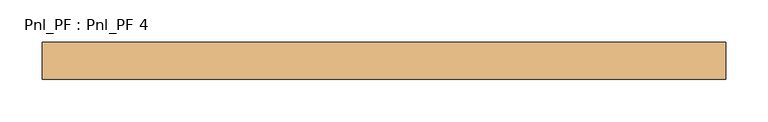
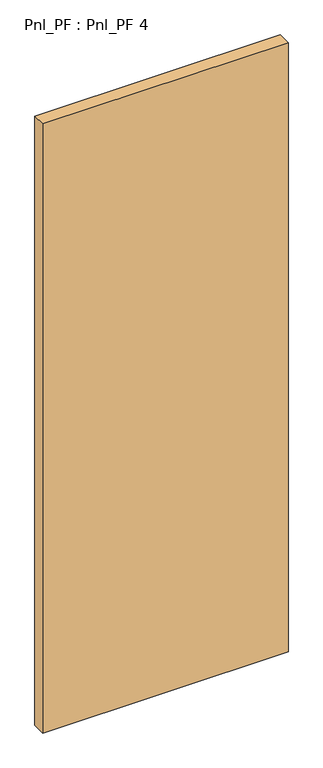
"""IFC4 building model written with IfcOpenShell, lengths in millimetres: door geometry, Pnl_PF : Pnl_PF 4."""

from ifc_helpers import new_model, si_unit, origin, origin_with_axes, place, context, project, spatial, polyline, outline, extrude, source, transform, mapped, element, save


def pnl_pf_pnl_pf_4_b2a4cf2d(model_context):
    return source(origin(), model_context, "Body", "SweptSolid", [
        extrude(outline(polyline([(812.8, 44.45), (812.8, 0.0), (0.0, 0.0), (0.0, 44.45), (812.8, 44.45)])), origin_with_axes(), (0.0, 0.0, 1.0), 2133.6),
    ])


if __name__ == "__main__":
    model = new_model("IFC4")
    model_context = context("Model", 3, world=origin())
    ifc_project = project(units=[si_unit("LENGTHUNIT", "METRE", prefix="MILLI")], contexts=[model_context])
    site = spatial("IfcSite", under=ifc_project)
    building = spatial("IfcBuilding", under=site)
    placement = place(None, origin())
    pnl_pf_pnl_pf_4_shape = pnl_pf_pnl_pf_4_b2a4cf2d(model_context)
    element("IfcDoor", 1, ObjectType="Pnl_PF : Pnl_PF 4", at=placement, inside=building, context=model_context, shape_type="MappedRepresentation", body=[
        mapped(pnl_pf_pnl_pf_4_shape, transform((0.0, 0.0, 0.0), x_axis=(1.0, 0.0, 0.0), y_axis=(0.0, 1.0, 0.0), z_axis=(0.0, 0.0, 1.0))),
    ])
    save(model, "model.ifc")
